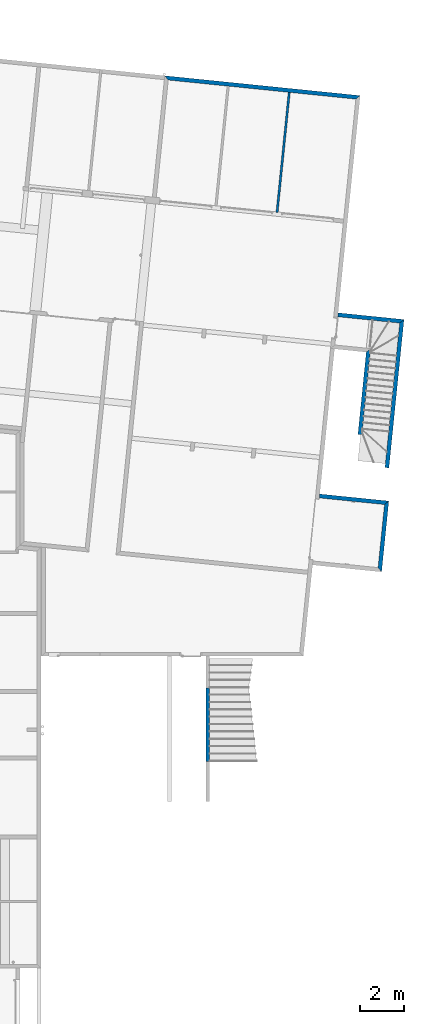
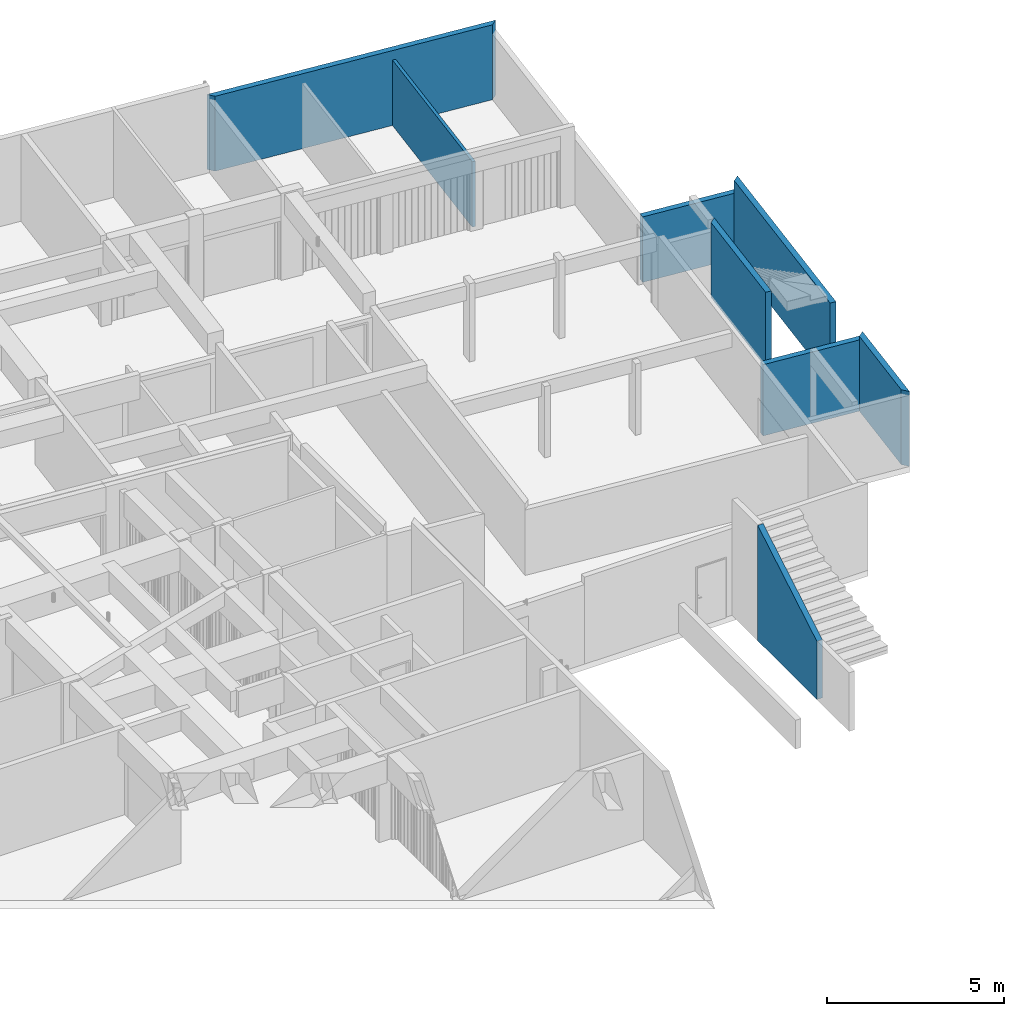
# One storey, part 19 of 41: 8 walls.
"""IFC2X3 building model written with IfcOpenShell, lengths in millimetres."""

from ifc_helpers import new_model, entity, si_unit, converted_unit, derived_unit, money_unit, direction, frame, origin_with_axes, place, context, subcontext, project, spatial, polyline, outline, extrude, boolean, faceted_brep, material, layer, layer_set, layer_usage, type_object, element, save


model = new_model("IFC2X3")

# Units and contexts
model_context = context("Model", 3, precision=0.01, world=origin_with_axes(), true_north=direction((0.0, 1.0)))
body_context = subcontext(model_context, "Body", "Model", "MODEL_VIEW")
ifc_project = project(units=[si_unit("LENGTHUNIT", "METRE", prefix="MILLI"), si_unit("AREAUNIT", "SQUARE_METRE"), si_unit("VOLUMEUNIT", "CUBIC_METRE"), converted_unit("PLANEANGLEUNIT", "DEGREE", entity("IfcPlaneAngleMeasure", 0.0174532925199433), si_unit("PLANEANGLEUNIT", "RADIAN"), dimensions=[0, 0, 0, 0, 0, 0, 0]), money_unit("USD"), converted_unit("TIMEUNIT", "Year", entity("IfcTimeMeasure", 31557600.0), si_unit("TIMEUNIT", "SECOND"), dimensions=[0, 0, 1, 0, 0, 0, 0]), si_unit("MASSUNIT", "GRAM", prefix="KILO"), si_unit("THERMODYNAMICTEMPERATUREUNIT", "DEGREE_CELSIUS"), si_unit("LUMINOUSINTENSITYUNIT", "LUMEN"), si_unit("ENERGYUNIT", "JOULE", prefix="MEGA"), derived_unit("THERMALCONDUCTANCEUNIT", [(si_unit("POWERUNIT", "WATT"), 1), (si_unit("LENGTHUNIT", "METRE"), -1), (si_unit("THERMODYNAMICTEMPERATUREUNIT", "KELVIN"), -1)]), derived_unit("SPECIFICHEATCAPACITYUNIT", [(si_unit("ENERGYUNIT", "JOULE"), 1), (si_unit("MASSUNIT", "GRAM", prefix="KILO"), -1), (si_unit("THERMODYNAMICTEMPERATUREUNIT", "KELVIN"), -1)]), derived_unit("MASSDENSITYUNIT", [(si_unit("MASSUNIT", "GRAM", prefix="KILO"), 1), (si_unit("VOLUMEUNIT", "CUBIC_METRE"), -1)])], contexts=[model_context])

# Site, building, storey
site_placement = place(None, origin_with_axes())
site = spatial("IfcSite", under=ifc_project, at=site_placement, Name="Site", CompositionType="ELEMENT")
building_placement = place(site_placement, origin_with_axes())
building = spatial("IfcBuilding", under=site, at=building_placement, Name="Bâtiment", CompositionType="ELEMENT")
storey_placement = place(building_placement, origin_with_axes())
storey = spatial("IfcBuildingStorey", under=building, at=storey_placement, Name="sousol", CompositionType="ELEMENT", Elevation=0.0)

# Walls
ifc_material_1 = material(Name="Brique 1 268964100")
ifc_layer_1 = layer(ifc_material_1, 100.0, ventilated="UNKNOWN")
ifc_layer_set_1 = layer_set([ifc_layer_1], Name="Cloison 100 gaine")
ifc_layer_usage_1 = layer_usage(ifc_layer_set_1, "AXIS2", "NEGATIVE", 0.0)
wall_type_1 = type_object("IfcWallType", Name="Cloison 100 gaine 100", PredefinedType="NOTDEFINED")
wall_1_placement = place(storey_placement, frame((2245077.539364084, -612442.8140696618, 0.0), z_axis=(0.0, 0.0, 1.0), x_axis=(0.1011032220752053, 0.9948759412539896, 0.0)))
element("IfcWallStandardCase", 1, at=wall_1_placement, inside=storey, type_object=wall_type_1, material=ifc_layer_usage_1, Name="Mur-133", context=body_context, shape_type="SweptSolid", body=[
    extrude(outline(polyline([(0.0, -100.0000000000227), (5499.999999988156, -100.0000000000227), (5499.999999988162, 0.0), (0.0, 0.0), (0.0, -100.0000000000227)])), origin_with_axes(), (0.0, 0.0, 1.0), 2259.999999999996),
])
ifc_material_2 = material(Name="Parpaing 314940890")
ifc_layer_2 = layer(ifc_material_2, 180.0, ventilated="UNKNOWN")
ifc_layer_set_2 = layer_set([ifc_layer_2], Name="Beton  18 0170347028")
ifc_layer_usage_2 = layer_usage(ifc_layer_set_2, "AXIS2", "POSITIVE", 0.0)
wall_type_2 = type_object("IfcWallType", Name="Beton  18 0170347028 180", PredefinedType="NOTDEFINED")
wall_2_placement = place(storey_placement, frame((2248738.879872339, -607105.6393955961, 0.0), z_axis=(0.0, 0.0, 1.0), x_axis=(-0.9948759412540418, 0.1011032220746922, 0.0)))
element("IfcWallStandardCase", 2, at=wall_2_placement, inside=storey, type_object=wall_type_2, material=ifc_layer_usage_2, Name="Mur-132", context=body_context, shape_type="SweptSolid", body=[
    extrude(outline(polyline([(-179.9999999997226, 0.0), (8779.999902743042, 0.0), (8599.99990274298, 180.0000000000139), (4.547473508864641e-10, 180.0000000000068), (-179.9999999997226, 0.0)])), origin_with_axes(), (0.0, 0.0, 1.0), 2586.039272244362),
])
ifc_layer_usage_3 = layer_usage(ifc_layer_set_2, "AXIS2", "POSITIVE", 0.0)
wall_3_placement = place(storey_placement, frame((2250737.266173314, -617317.7211932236, 0.0), z_axis=(0.0, 0.0, 1.0), x_axis=(-0.9948759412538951, 0.1011032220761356, 0.0)))
element("IfcWallStandardCase", 3, at=wall_3_placement, inside=storey, type_object=wall_type_2, material=ifc_layer_usage_3, Name="Mur-133", context=body_context, shape_type="SweptSolid", body=[
    extrude(outline(polyline([(-180.0000000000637, 0.0), (2840.62082601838, 0.0), (2840.620826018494, 179.9999999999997), (1.13686837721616e-10, 179.9999999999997), (-180.0000000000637, 0.0)])), origin_with_axes(), (0.0, 0.0, 1.0), 2260.00000000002),
])
ifc_layer_usage_4 = layer_usage(ifc_layer_set_2, "AXIS2", "POSITIVE", 0.0)
wall_4_placement = place(storey_placement, frame((2250737.266173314, -617317.7211932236, 0.0), z_axis=(0.0, 0.0, 1.0), x_axis=(-0.1011032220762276, -0.9948759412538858, 0.0)))
element("IfcWallStandardCase", 4, at=wall_4_placement, inside=storey, type_object=wall_type_2, material=ifc_layer_usage_4, Name="Mur-133", context=body_context, shape_type="SweptSolid", body=[
    extrude(outline(polyline([(180.0000000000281, -1.13686837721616e-10), (6802.288803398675, -1.13686837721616e-10), (6802.288803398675, 179.99999999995), (0.0, 180.0000000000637), (180.0000000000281, -1.13686837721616e-10)])), origin_with_axes(), (0.0, 0.0, 1.0), 2700.0),
])
ifc_layer_usage_5 = layer_usage(ifc_layer_set_2, "AXIS2", "NEGATIVE", 0.0)
wall_5_placement = place(storey_placement, frame((2248816.225128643, -622571.7329506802, 0.0), z_axis=(0.0, 0.0, 1.0), x_axis=(0.1008361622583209, 0.9949030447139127, 0.0)))
element("IfcWallStandardCase", 5, at=wall_5_placement, inside=storey, type_object=wall_type_2, material=ifc_layer_usage_5, Name="Mur-132", context=body_context, shape_type="SweptSolid", body=[
    extrude(outline(polyline([(0.0, -180.0000000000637), (3949.778673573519, -179.99999999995), (3769.787514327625, 0.0), (0.0, 0.0), (0.0, -180.0000000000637)])), origin_with_axes(), (0.0, 0.0, 1.0), 2586.039272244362),
])
ifc_layer_usage_6 = layer_usage(ifc_layer_set_2, "AXIS2", "NEGATIVE", 0.0)
wall_6_placement = place(storey_placement, frame((2250026.257769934, -625773.8935316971, 0.0), z_axis=(0.0, 0.0, 1.0), x_axis=(-0.9948759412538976, 0.1011032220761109, 0.0)))
element("IfcWallStandardCase", 6, at=wall_6_placement, inside=storey, type_object=wall_type_2, material=ifc_layer_usage_6, Name="Mur-132", context=body_context, shape_type="SweptSolid", body=[
    extrude(outline(polyline([(-180.0000000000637, -179.9999999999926), (2985.316898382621, -179.9999999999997), (2985.316898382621, 0.0), (-1.13686837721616e-10, 0.0), (-180.0000000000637, -179.9999999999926)])), origin_with_axes(), (0.0, 0.0, 1.0), 2459.999999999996),
])
ifc_layer_usage_7 = layer_usage(ifc_layer_set_2, "AXIS2", "POSITIVE", 0.0)
wall_7_placement = place(storey_placement, frame((2250026.257769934, -625773.8935316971, 0.0), z_axis=(0.0, 0.0, 1.0), x_axis=(-0.1011032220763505, -0.9948759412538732, 0.0)))
element("IfcWallStandardCase", 7, at=wall_7_placement, inside=storey, type_object=wall_type_2, material=ifc_layer_usage_7, Name="Mur-132", context=body_context, shape_type="SweptSolid", body=[
    extrude(outline(polyline([(0.0, 0.0), (2889.608703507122, 0.0), (3069.608703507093, 180.0000000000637), (-180.0000000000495, 180.0000000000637), (0.0, 0.0)])), origin_with_axes(), (0.0, 0.0, 1.0), 2586.039272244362),
])
wall_8_placement = place(storey_placement, frame((2242056.657570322, -634139.6647523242, 0.0), z_axis=(0.0, 0.0, 1.0), x_axis=(0.0, -1.0, 0.0)))
element("IfcWall", 8, at=wall_8_placement, inside=storey, type_object=wall_type_2, material=ifc_material_2, Name="Mur-133", context=body_context, shape_type="CSG", body=[
    boolean("DIFFERENCE", extrude(outline(polyline([(-180.0, 0.0), (0.0, 0.0), (0.0, 4000.0), (-180.0, 4000.0), (-180.0, 0.0)])), frame((0.0, 0.0, 0.0), z_axis=(1.0, 0.0, 0.0), x_axis=(0.0, 1.0, 0.0)), (0.0, 0.0, 1.0), 3349.999999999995), faceted_brep([(3349.999999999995, 0.0, 2008.28856370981), (0.0, 1.13686837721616e-10, 3982.217239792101), (0.0, 0.0, 4000.0), (3349.999999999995, 0.0, 4000.0), (0.0, -179.99999999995, 3982.217239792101), (3349.999999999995, -179.99999999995, 2008.28856370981), (0.0, -179.99999999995, 4000.0), (3349.999999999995, -179.99999999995, 4000.0)], [[[0, 1, 2, 3]], [[4, 1, 0, 5]], [[1, 4, 6, 2]], [[3, 2, 6, 7]], [[5, 0, 3, 7]], [[4, 5, 7, 6]]])),
])

save(model, "model.ifc")
